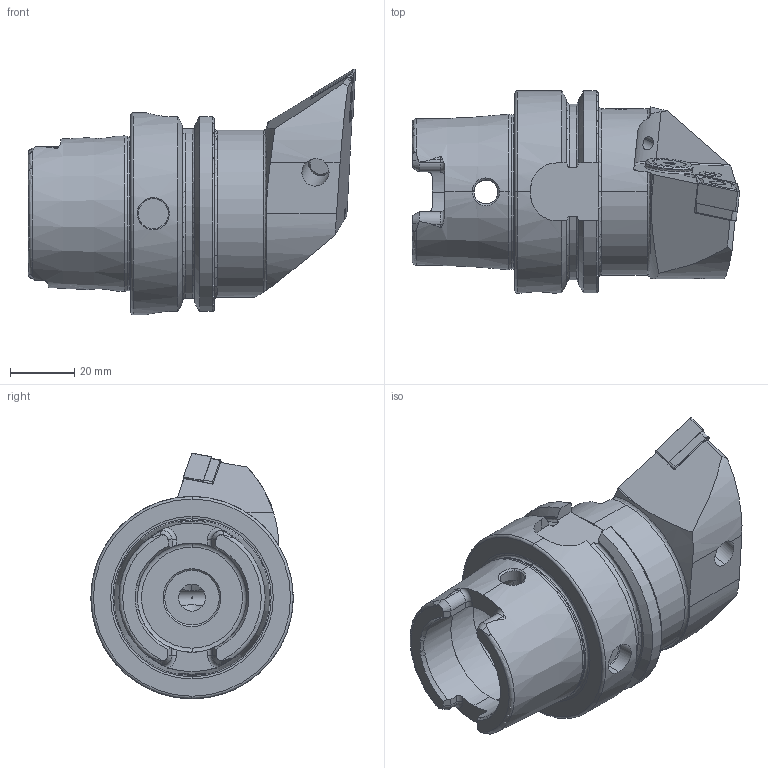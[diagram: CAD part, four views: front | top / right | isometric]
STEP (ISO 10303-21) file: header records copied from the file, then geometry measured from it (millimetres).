
FILE_DESCRIPTION (( 'STEP AP214' ), '1' );
FILE_NAME ('HA6.PDF.LUA.070-HP.STEP', '2020-09-17T06:56:30', ( '' ), ( '' ), 'SwSTEP 2.0', 'SolidWorks 2017', '' );
FILE_SCHEMA (( 'AUTOMOTIVE_DESIGN' ));
Length unit declared in the file: millimetre
Products named in the file (13): WCD-ER4.101.017_A; WDF-ER3.101.000_A; CHP-ER1.015.006; ISO 8752 2x8; DNMG150604; HA6-PDF.LUA.070-HP_A; CHP-ER1.008.014_A; DIN 7991 - M5x15; DIN 3771 - 13x1; CHP-ER1.015.006_A; WCD-ER1.101.000; WDF-ER2.101.003_A; HA6.PDF.LUA.070-HP
Assembly tree (12 placements, depth 3):
  HA6.PDF.LUA.070-HP
    HA6-PDF.LUA.070-HP_A
    DNMG150604
    WDF-ER3.101.000_A
    WCD-ER1.101.000
    WCD-ER4.101.017_A
    WDF-ER2.101.003_A
    CHP-ER1.008.014_A
    ISO 8752 2x8
    CHP-ER1.015.006
      CHP-ER1.015.006_A
      DIN 3771 - 13x1
      DIN 7991 - M5x15
Bounding box: 101.9 x 63 x 76.5 mm (x, y, z)
Volume: 152789.3 mm3; surface area: 36276.7 mm2
Topology: 11 solids, 11 shells, 503 faces, 1261 edges, 766 vertices
Faces by surface type: plane 158, cylinder 136, cone 127, torus 58, bspline 24
Entity records: 18335 total; most frequent: CARTESIAN_POINT 5568, ORIENTED_EDGE 2478, DIRECTION 2376, EDGE_CURVE 1239, AXIS2_PLACEMENT_3D 935, VERTEX_POINT 766, EDGE_LOOP 533, LINE 506
